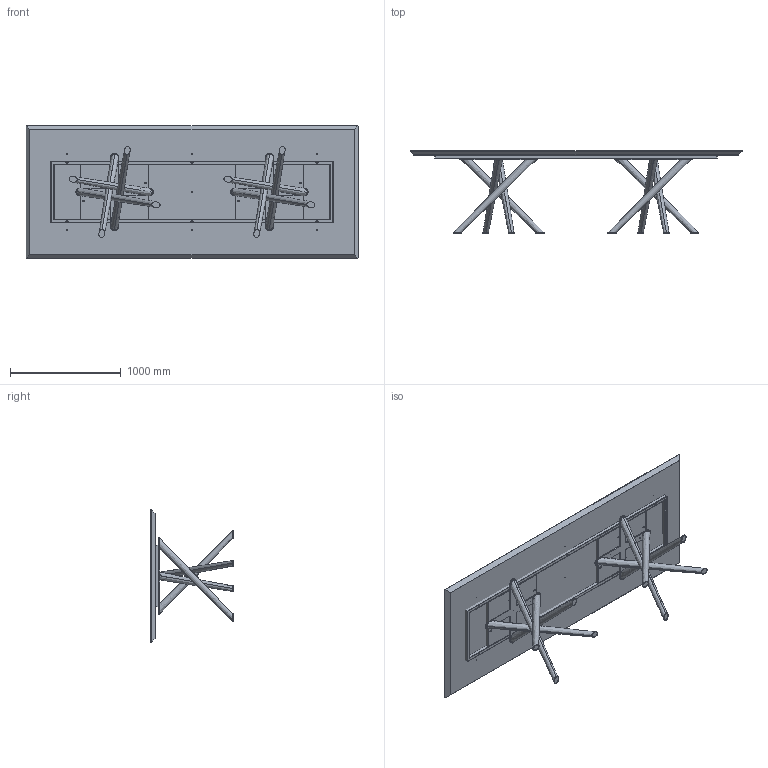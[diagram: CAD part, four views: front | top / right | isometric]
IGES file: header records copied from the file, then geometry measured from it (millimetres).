
Start section: SolidWorks IGES file using analytic representation for surfaces
Global section: file name: Y:\eforma\TECNICO\SOLIDWORKS\E-FORMA\1-TAVOLI\BALY\02 parts\BA24W.IGS; native system: SolidWorks 2022; preprocessor: SolidWorks 2022; author: eforma.tech; date: 240808.075357; units: millimetre
Bounding box: 3000 x 743 x 1200 mm (x, y, z)
Volume: 141052698.9 mm3; surface area: 13744693.6 mm2
Topology: 22 solids, 22 shells, 644 faces, 1584 edges, 959 vertices
Faces by surface type: revolution 350, plane 278, bspline 16
